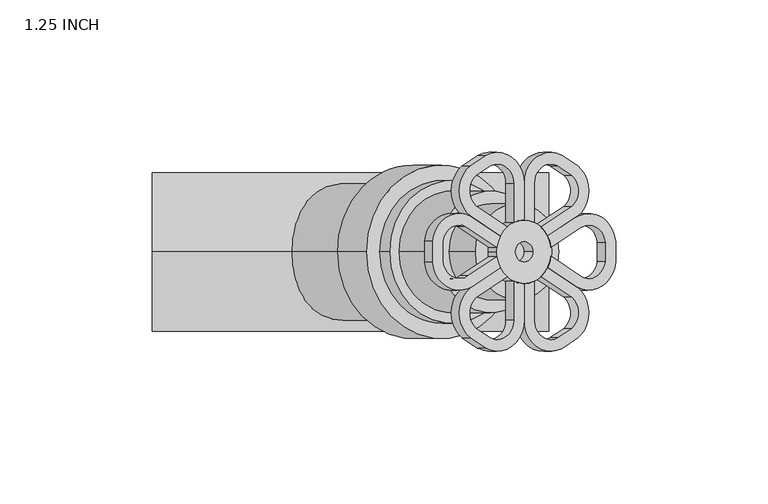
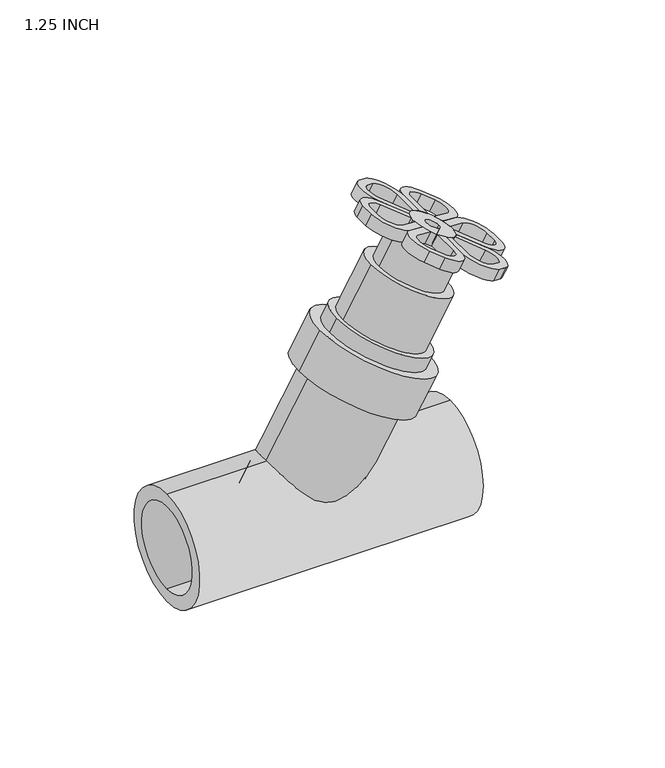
"""IFC4 building model written with IfcOpenShell, lengths in millimetres: valve geometry, Aquatherm - Inclined Valve without drain : 1.25 INCH."""

from ifc_helpers import new_model, si_unit, point, frame, frame_2d, origin, origin_2d, place, context, project, spatial, polyline, circle_curve, trimmed, segment, composite_curve, outline, extrude, source, transform, mapped, element, save
from ifc_brep_helpers import plane_surface, cylinder_surface, revolved_surface, advanced_brep


def valve_1_25_inch_bb9c0c51(model_context):
    return source(origin(), model_context, "Body", "SolidModel", [
        advanced_brep(
        [(131.4312275, 10.5951948, 100.0426553), (144.564244, 2.812243, 92.4603047), (144.5843625, -4.0695455, 92.4486893), (132.2186595, -12.3087434, 99.5880312), (122.4292614, -5.7824779, 105.2399429), (123.5225816, -2.111949, 104.6087142), (133.7085611, -8.902602, 98.7278362), (141.2862492, -3.6900946, 94.3528559), (141.3022835, 2.4387005, 94.3435985), (133.0810059, 7.295638, 99.0901553), (123.5099846, 0.9149571, 104.6159871), (122.4016894, 4.5755028, 105.2558616), (134.0982275, 10.5951948, 104.6620349), (125.0686894, 4.5755028, 109.8752411), (126.1769846, 0.9149571, 109.2353666), (135.7480059, 7.295638, 103.7095349), (143.9477944, 2.4362397, 98.9753847), (143.968063, -3.691799, 98.9636826), (136.3755611, -8.902602, 103.3472157), (126.1895816, -2.111949, 109.2280937), (125.0962614, -5.7824779, 109.8593224), (134.8856595, -12.3087434, 104.2074107), (147.2365487, -4.0678412, 97.0766215), (147.2527331, 2.8147039, 97.0672775)],
        [
            (0, 1, circle_curve(frame((135.8231929, 1.8112639, 97.5069529), z_axis=(-0.49999999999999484, 0.0, -0.8660254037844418), x_axis=(0.4330127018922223, -0.866025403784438, -0.24999999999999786)), 10.1428098)),
            (1, 2, circle_curve(frame((114.5968937, -0.6194603, 109.7619625), z_axis=(-0.49999999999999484, 0.0, -0.8660254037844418), x_axis=(0.4330127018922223, -0.866025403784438, -0.24999999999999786)), 34.798)),
            (2, 3, circle_curve(frame((135.8288972, -3.0622214, 97.5036596), z_axis=(-0.49999999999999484, 0.0, -0.8660254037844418), x_axis=(0.4330127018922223, -0.866025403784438, -0.24999999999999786)), 10.1428098)),
            (3, 4),
            (4, 5, circle_curve(frame((114.5968937, -0.6194603, 109.7619625), z_axis=(0.49999999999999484, 0.0, 0.8660254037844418), x_axis=(0.41622412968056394, 0.8769321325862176, -0.2403071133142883)), 10.414)),
            (5, 6),
            (6, 7, circle_curve(frame((135.8288972, -3.0622214, 97.5036596), z_axis=(0.49999999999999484, 0.0, 0.8660254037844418), x_axis=(0.4330127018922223, -0.866025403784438, -0.24999999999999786)), 6.3328098)),
            (7, 8, circle_curve(frame((114.5968937, -0.6194603, 109.7619625), z_axis=(0.49999999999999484, 0.0, 0.8660254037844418), x_axis=(0.4330127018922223, -0.866025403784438, -0.24999999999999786)), 30.988)),
            (8, 9, circle_curve(frame((135.8231929, 1.8112639, 97.5069529), z_axis=(0.49999999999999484, 0.0, 0.8660254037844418), x_axis=(0.4330127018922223, -0.866025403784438, -0.24999999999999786)), 6.3328098)),
            (9, 10),
            (10, 11, circle_curve(frame((114.5911894, -0.6314972, 109.7652558), z_axis=(0.49999999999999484, 0.0, 0.8660254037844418), x_axis=(0.4330127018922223, -0.866025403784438, -0.24999999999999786)), 10.414)),
            (11, 0),
            (12, 13),
            (13, 14, circle_curve(frame((117.2581894, -0.6314972, 114.3846353), z_axis=(-0.49999999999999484, 0.0, -0.8660254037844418), x_axis=(0.4330127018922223, -0.866025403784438, -0.24999999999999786)), 10.414)),
            (14, 15),
            (15, 16, circle_curve(frame((138.4901929, 1.8112639, 102.1263324), z_axis=(-0.49999999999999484, 0.0, -0.8660254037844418), x_axis=(0.4330127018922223, -0.866025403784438, -0.24999999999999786)), 6.3328098)),
            (16, 17, circle_curve(frame((117.2638937, -0.6194603, 114.381342), z_axis=(-0.49999999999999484, 0.0, -0.8660254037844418), x_axis=(0.4330127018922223, -0.866025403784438, -0.24999999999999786)), 30.988)),
            (17, 18, circle_curve(frame((138.4958972, -3.0622214, 102.1230391), z_axis=(-0.49999999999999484, 0.0, -0.8660254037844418), x_axis=(0.4330127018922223, -0.866025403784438, -0.24999999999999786)), 6.3328098)),
            (18, 19),
            (19, 20, circle_curve(frame((117.2638937, -0.6194603, 114.381342), z_axis=(-0.49999999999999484, 0.0, -0.8660254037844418), x_axis=(0.41622412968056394, 0.8769321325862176, -0.2403071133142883)), 10.414)),
            (20, 21),
            (21, 22, circle_curve(frame((138.4958972, -3.0622214, 102.1230391), z_axis=(0.49999999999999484, 0.0, 0.8660254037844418), x_axis=(0.4330127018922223, -0.866025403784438, -0.24999999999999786)), 10.1428098)),
            (22, 23, circle_curve(frame((117.2638937, -0.6194603, 114.381342), z_axis=(0.49999999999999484, 0.0, 0.8660254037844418), x_axis=(0.4330127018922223, -0.866025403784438, -0.24999999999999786)), 34.798)),
            (23, 12, circle_curve(frame((138.4901929, 1.8112639, 102.1263324), z_axis=(0.49999999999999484, 0.0, 0.8660254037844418), x_axis=(0.4330127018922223, -0.866025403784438, -0.24999999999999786)), 10.1428098)),
            (11, 13),
            (12, 0),
            (10, 14),
            (9, 15),
            (8, 16),
            (7, 17),
            (6, 18),
            (5, 19),
            (4, 20),
            (3, 21),
            (2, 22),
            (1, 23),
        ],
        [
            plane_surface(frame((140.2151584, -6.9726671, 94.9712505), z_axis=(-0.4999999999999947, 0.0, -0.8660254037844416), x_axis=(-0.7500000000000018, -0.5000000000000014, 0.43301270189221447))),
            plane_surface(frame((142.8821584, -6.9726671, 99.59063), z_axis=(0.4999999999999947, 0.0, 0.8660254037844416), x_axis=(0.7500000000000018, 0.5000000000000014, -0.43301270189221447))),
            plane_surface(frame((122.4016894, 4.5755028, 105.2558616), z_axis=(-0.43301270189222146, 0.8660254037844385, 0.24999999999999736), x_axis=(0.49999999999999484, 0.0, 0.8660254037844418))),
            revolved_surface(polyline([(121.76758372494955, -9.650285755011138, 111.78113538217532), (119.10058367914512, -9.650285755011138, 107.16175579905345)]), (117.2581894, -0.6314972, 114.3846353), (0.49999999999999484, 0.0, 0.8660254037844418)),
            plane_surface(frame((133.0810059, 7.295638, 99.0901553), z_axis=(0.43301270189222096, -0.8660254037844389, -0.24999999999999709), x_axis=(0.49999999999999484, 0.0, 0.8660254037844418))),
            revolved_surface(polyline([(141.23238002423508, -3.6731102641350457, 100.5431300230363), (138.56537998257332, -3.6731102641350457, 95.92375044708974)]), (138.4901929, 1.8112639, 102.1263324), (0.49999999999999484, 0.0, 0.8660254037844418)),
            revolved_surface(polyline([(130.68209130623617, -27.455855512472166, 106.63434200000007), (128.01509130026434, -27.455855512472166, 102.0149624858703)]), (117.2638937, -0.6194603, 114.381342), (0.49999999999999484, 0.0, 0.8660254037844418)),
            revolved_surface(polyline([(141.23808428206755, -8.546595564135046, 100.53983665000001), (138.57108426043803, -8.546595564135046, 95.92045710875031)]), (138.4958972, -3.0622214, 102.1230391), (0.49999999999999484, 0.0, 0.8660254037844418)),
            plane_surface(frame((123.5225816, -2.111949, 104.6087142), z_axis=(0.4330127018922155, 0.8660254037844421, -0.2499999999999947), x_axis=(0.49999999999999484, 0.0, 0.8660254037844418))),
            revolved_surface(polyline([(121.59845179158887, 8.51291092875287, 111.87878373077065), (118.93145178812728, 8.51291092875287, 107.25940422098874)]), (117.2638937, -0.6194603, 114.381342), (0.49999999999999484, 0.0, 0.8660254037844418)),
            plane_surface(frame((132.2186595, -12.3087434, 99.5880312), z_axis=(-0.43301270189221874, -0.8660254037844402, 0.24999999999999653), x_axis=(0.49999999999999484, 0.0, 0.8660254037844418))),
            cylinder_surface(frame((138.4958972, -3.0622214, 102.1230391), z_axis=(-0.49999999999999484, 0.0, -0.8660254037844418), x_axis=(0.4330127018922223, -0.866025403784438, -0.24999999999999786)), 10.1428098),
            cylinder_surface(frame((117.2638937, -0.6194603, 114.381342), z_axis=(-0.49999999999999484, 0.0, -0.8660254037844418), x_axis=(0.4330127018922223, -0.866025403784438, -0.24999999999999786)), 34.798),
            cylinder_surface(frame((138.4901929, 1.8112639, 102.1263324), z_axis=(-0.49999999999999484, 0.0, -0.8660254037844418), x_axis=(0.4330127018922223, -0.866025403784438, -0.24999999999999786)), 10.1428098),
        ],
        [
            (0, [[1, 2, 3, 4, 5, 6, 7, 8, 9, 10, 11, 12]]),
            (1, [[13, 14, 15, 16, 17, 18, 19, 20, 21, 22, 23, 24]]),
            (2, [[-12, 25, -13, 26]]),
            (3, [[-11, 27, -14, -25]]),
            (4, [[-10, 28, -15, -27]]),
            (5, [[-9, 29, -16, -28]]),
            (6, [[-8, 30, -17, -29]]),
            (7, [[-7, 31, -18, -30]]),
            (8, [[-6, 32, -19, -31]]),
            (9, [[-5, 33, -20, -32]]),
            (10, [[-4, 34, -21, -33]]),
            (11, [[-3, 35, -22, -34]]),
            (12, [[-2, 36, -23, -35]]),
            (13, [[-1, -26, -24, -36]]),
        ],
    ),
        advanced_brep(
        [(97.7511514, -11.8581892, 119.4878563), (84.6181349, -4.0752375, 127.0702069), (84.5980164, 2.8065511, 127.0818224), (96.9637194, 11.0457489, 119.9424804), (106.7531175, 4.5194835, 114.2905688), (105.6597973, 0.8489546, 114.9217975), (95.4738178, 7.6396076, 120.8026755), (87.8961297, 2.4271002, 125.1776558), (87.8800953, -3.7016949, 125.1869132), (96.101373, -8.5586324, 120.4403563), (105.6723943, -2.1779516, 114.9145246), (106.7806894, -5.8384972, 114.2746501), (100.4181514, -11.8581892, 124.1072358), (109.4476894, -5.8384972, 118.8940296), (108.3393943, -2.1779516, 119.5339041), (98.768373, -8.5586324, 125.0597358), (90.5685845, -3.6992341, 129.7938859), (90.5483159, 2.4288045, 129.805588), (98.1408178, 7.6396076, 125.422055), (108.3267973, 0.8489546, 119.541177), (109.4201175, 4.5194835, 118.9099483), (99.6307194, 11.0457489, 124.5618599), (87.2798302, 2.8048467, 131.6926491), (87.2636458, -4.0776983, 131.7019932)],
        [
            (0, 1, circle_curve(frame((93.359186, -3.0742583, 122.0235588), z_axis=(-0.49999999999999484, 0.0, -0.8660254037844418), x_axis=(-0.4330127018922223, 0.866025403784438, 0.24999999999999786)), 10.1428098)),
            (1, 2, circle_curve(frame((114.5854852, -0.6435341, 109.7685492), z_axis=(-0.49999999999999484, 0.0, -0.8660254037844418), x_axis=(-0.4330127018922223, 0.866025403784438, 0.24999999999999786)), 34.798)),
            (2, 3, circle_curve(frame((93.3534817, 1.7992269, 122.0268521), z_axis=(-0.49999999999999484, 0.0, -0.8660254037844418), x_axis=(-0.4330127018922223, 0.866025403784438, 0.24999999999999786)), 10.1428098)),
            (3, 4),
            (4, 5, circle_curve(frame((114.5854852, -0.6435341, 109.7685492), z_axis=(0.49999999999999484, 0.0, 0.8660254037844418), x_axis=(-0.41622412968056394, -0.8769321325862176, 0.2403071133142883)), 10.414)),
            (5, 6),
            (6, 7, circle_curve(frame((93.3534817, 1.7992269, 122.0268521), z_axis=(0.49999999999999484, 0.0, 0.8660254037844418), x_axis=(-0.4330127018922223, 0.866025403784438, 0.24999999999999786)), 6.3328098)),
            (7, 8, circle_curve(frame((114.5854852, -0.6435341, 109.7685492), z_axis=(0.49999999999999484, 0.0, 0.8660254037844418), x_axis=(-0.4330127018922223, 0.866025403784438, 0.24999999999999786)), 30.988)),
            (8, 9, circle_curve(frame((93.359186, -3.0742583, 122.0235588), z_axis=(0.49999999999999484, 0.0, 0.8660254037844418), x_axis=(-0.4330127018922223, 0.866025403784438, 0.24999999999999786)), 6.3328098)),
            (9, 10),
            (10, 11, circle_curve(frame((114.5911894, -0.6314972, 109.7652558), z_axis=(0.49999999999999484, 0.0, 0.8660254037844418), x_axis=(-0.4330127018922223, 0.866025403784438, 0.24999999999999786)), 10.414)),
            (11, 0),
            (12, 13),
            (13, 14, circle_curve(frame((117.2581894, -0.6314972, 114.3846353), z_axis=(-0.49999999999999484, 0.0, -0.8660254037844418), x_axis=(-0.4330127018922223, 0.866025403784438, 0.24999999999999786)), 10.414)),
            (14, 15),
            (15, 16, circle_curve(frame((96.026186, -3.0742583, 126.6429383), z_axis=(-0.49999999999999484, 0.0, -0.8660254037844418), x_axis=(-0.4330127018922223, 0.866025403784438, 0.24999999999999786)), 6.3328098)),
            (16, 17, circle_curve(frame((117.2524852, -0.6435341, 114.3879287), z_axis=(-0.49999999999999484, 0.0, -0.8660254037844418), x_axis=(-0.4330127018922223, 0.866025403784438, 0.24999999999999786)), 30.988)),
            (17, 18, circle_curve(frame((96.0204817, 1.7992269, 126.6462316), z_axis=(-0.49999999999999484, 0.0, -0.8660254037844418), x_axis=(-0.4330127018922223, 0.866025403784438, 0.24999999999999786)), 6.3328098)),
            (18, 19),
            (19, 20, circle_curve(frame((117.2524852, -0.6435341, 114.3879287), z_axis=(-0.49999999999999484, 0.0, -0.8660254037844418), x_axis=(-0.41622412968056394, -0.8769321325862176, 0.2403071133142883)), 10.414)),
            (20, 21),
            (21, 22, circle_curve(frame((96.0204817, 1.7992269, 126.6462316), z_axis=(0.49999999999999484, 0.0, 0.8660254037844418), x_axis=(-0.4330127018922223, 0.866025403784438, 0.24999999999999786)), 10.1428098)),
            (22, 23, circle_curve(frame((117.2524852, -0.6435341, 114.3879287), z_axis=(0.49999999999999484, 0.0, 0.8660254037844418), x_axis=(-0.4330127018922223, 0.866025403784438, 0.24999999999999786)), 34.798)),
            (23, 12, circle_curve(frame((96.026186, -3.0742583, 126.6429383), z_axis=(0.49999999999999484, 0.0, 0.8660254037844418), x_axis=(-0.4330127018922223, 0.866025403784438, 0.24999999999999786)), 10.1428098)),
            (0, 12),
            (23, 1),
            (22, 2),
            (21, 3),
            (20, 4),
            (19, 5),
            (18, 6),
            (17, 7),
            (16, 8),
            (15, 9),
            (14, 10),
            (13, 11),
        ],
        [
            plane_surface(frame((88.9672205, 5.7096726, 124.5592612), z_axis=(-0.4999999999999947, 0.0, -0.8660254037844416), x_axis=(0.7500000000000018, 0.5000000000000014, -0.43301270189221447))),
            plane_surface(frame((91.6342205, 5.7096726, 129.1786407), z_axis=(0.4999999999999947, 0.0, 0.8660254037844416), x_axis=(-0.7500000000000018, -0.5000000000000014, 0.43301270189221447))),
            cylinder_surface(frame((96.026186, -3.0742583, 126.6429383), z_axis=(-0.49999999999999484, 0.0, -0.8660254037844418), x_axis=(-0.4330127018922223, 0.866025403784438, 0.24999999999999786)), 10.1428098),
            cylinder_surface(frame((117.2524852, -0.6435341, 114.3879287), z_axis=(-0.49999999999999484, 0.0, -0.8660254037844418), x_axis=(-0.4330127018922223, 0.866025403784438, 0.24999999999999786)), 34.798),
            cylinder_surface(frame((96.0204817, 1.7992269, 126.6462316), z_axis=(-0.49999999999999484, 0.0, -0.8660254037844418), x_axis=(-0.4330127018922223, 0.866025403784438, 0.24999999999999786)), 10.1428098),
            plane_surface(frame((96.9637194, 11.0457489, 119.9424804), z_axis=(0.43301270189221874, 0.8660254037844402, -0.24999999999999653), x_axis=(0.49999999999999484, 0.0, 0.8660254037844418))),
            revolved_surface(polyline([(112.9179271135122, -9.77590532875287, 116.8904869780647), (110.25092711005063, -9.77590532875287, 112.2711074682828)]), (117.2524852, -0.6435341, 114.3879287), (0.49999999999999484, 0.0, 0.8660254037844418)),
            plane_surface(frame((105.6597973, 0.8489546, 114.9217975), z_axis=(-0.43301270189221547, -0.8660254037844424, 0.24999999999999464), x_axis=(0.49999999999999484, 0.0, 0.8660254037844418))),
            revolved_surface(polyline([(93.27829462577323, 7.283601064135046, 128.22943406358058), (90.61129461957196, 7.283601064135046, 123.61005454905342)]), (96.0204817, 1.7992269, 126.6462316), (0.49999999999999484, 0.0, 0.8660254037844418)),
            revolved_surface(polyline([(103.8342875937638, 26.192861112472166, 122.13492869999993), (101.16728757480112, 26.192861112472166, 117.51554916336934)]), (117.2524852, -0.6435341, 114.3879287), (0.49999999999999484, 0.0, 0.8660254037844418)),
            revolved_surface(polyline([(93.28399891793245, 2.410115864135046, 128.22614074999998), (90.61699887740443, 2.410115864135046, 123.60676117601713)]), (96.026186, -3.0742583, 126.6429383), (0.49999999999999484, 0.0, 0.8660254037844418)),
            plane_surface(frame((96.101373, -8.5586324, 120.4403563), z_axis=(-0.43301270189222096, 0.8660254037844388, 0.24999999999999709), x_axis=(0.49999999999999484, 0.0, 0.8660254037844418))),
            revolved_surface(polyline([(112.74879514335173, 8.387291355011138, 116.98813533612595), (110.0817951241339, 8.387291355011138, 112.36875579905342)]), (117.2581894, -0.6314972, 114.3846353), (0.49999999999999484, 0.0, 0.8660254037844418)),
            plane_surface(frame((106.7806894, -5.8384972, 114.2746501), z_axis=(0.43301270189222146, -0.8660254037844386, -0.24999999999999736), x_axis=(0.49999999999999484, 0.0, 0.8660254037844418))),
        ],
        [
            (0, [[1, 2, 3, 4, 5, 6, 7, 8, 9, 10, 11, 12]]),
            (1, [[13, 14, 15, 16, 17, 18, 19, 20, 21, 22, 23, 24]]),
            (2, [[-1, 25, -24, 26]]),
            (3, [[-2, -26, -23, 27]]),
            (4, [[-3, -27, -22, 28]]),
            (5, [[-4, -28, -21, 29]]),
            (6, [[-5, -29, -20, 30]]),
            (7, [[-6, -30, -19, 31]]),
            (8, [[-7, -31, -18, 32]]),
            (9, [[-8, -32, -17, 33]]),
            (10, [[-9, -33, -16, 34]]),
            (11, [[-10, -34, -15, 35]]),
            (12, [[-11, -35, -14, 36]]),
            (13, [[-12, -36, -13, -25]]),
        ],
    ),
        advanced_brep(
        [(114.5911894, 21.8218868, 109.7652558), (114.5911894, 9.7825028, 109.7652558), (111.2916327, 9.0605251, 111.6702558), (111.2916327, 21.8218868, 111.6702558), (103.5471896, 27.5919762, 116.1415121), (98.9410264, 24.5482255, 118.8008817), (98.829175, 14.350322, 118.8654591), (109.0151545, 7.559669, 112.9845811), (106.8089179, 4.6310844, 114.2583524), (97.0195198, 11.1573498, 119.910264), (97.0247518, 27.6286901, 119.9072433), (102.1785684, 31.086147, 116.9316859), (117.2581894, 21.8218868, 114.3846353), (104.8544674, 31.0634274, 121.5459276), (99.6830667, 27.6426517, 124.5316372), (99.6865198, 11.1573498, 124.5296435), (109.4759179, 4.6310844, 118.8777319), (111.6821545, 7.559669, 117.6039606), (101.496175, 14.350322, 123.4848386), (101.6167115, 24.5342638, 123.4152468), (106.2052907, 27.6146957, 120.7660294), (113.9586327, 21.8218868, 116.2896353), (113.9586327, 9.0605251, 116.2896353), (117.2581894, 9.7825028, 114.3846353)],
        [
            (0, 1),
            (1, 2, circle_curve(frame((114.5911894, -0.6314972, 109.7652558), z_axis=(0.49999999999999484, 0.0, 0.8660254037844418), x_axis=(-0.8660254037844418, 0.0, 0.49999999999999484)), 10.414)),
            (2, 3),
            (3, 4, circle_curve(frame((105.8072585, 21.8218868, 114.8366607), z_axis=(0.49999999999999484, 0.0, 0.8660254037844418), x_axis=(-0.8660254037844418, 0.0, 0.49999999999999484)), 6.3328098)),
            (4, 5, circle_curve(frame((114.597365, -0.6197745, 109.7616904), z_axis=(0.49999999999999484, 0.0, 0.8660254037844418), x_axis=(-0.8660254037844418, 0.0, 0.49999999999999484)), 30.988)),
            (5, 6, circle_curve(frame((102.1492925, 19.3908484, 116.9485884), z_axis=(0.49999999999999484, 0.0, 0.8660254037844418), x_axis=(-0.8660254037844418, 0.0, 0.49999999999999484)), 6.3328098)),
            (6, 7),
            (7, 8, circle_curve(frame((114.597365, -0.6197745, 109.7616904), z_axis=(0.4999999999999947, 0.0, 0.8660254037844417), x_axis=(0.4495870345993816, 0.8546901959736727, -0.2595691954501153)), 10.414)),
            (8, 9),
            (9, 10, circle_curve(frame((102.1492925, 19.3908484, 116.9485884), z_axis=(-0.49999999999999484, 0.0, -0.8660254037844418), x_axis=(-0.8660254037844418, 0.0, 0.49999999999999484)), 10.1428098)),
            (10, 11, circle_curve(frame((114.597365, -0.6197745, 109.7616904), z_axis=(-0.49999999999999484, 0.0, -0.8660254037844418), x_axis=(-0.8660254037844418, 0.0, 0.49999999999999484)), 34.798)),
            (11, 0, circle_curve(frame((105.8072585, 21.8218868, 114.8366607), z_axis=(-0.49999999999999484, 0.0, -0.8660254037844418), x_axis=(-0.8660254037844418, 0.0, 0.49999999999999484)), 10.1428098)),
            (12, 13, circle_curve(frame((108.4742585, 21.8218868, 119.4560402), z_axis=(0.49999999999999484, 0.0, 0.8660254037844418), x_axis=(-0.8660254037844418, 0.0, 0.49999999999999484)), 10.1428098)),
            (13, 14, circle_curve(frame((117.264365, -0.6197745, 114.3810699), z_axis=(0.49999999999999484, 0.0, 0.8660254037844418), x_axis=(-0.8660254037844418, 0.0, 0.49999999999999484)), 34.798)),
            (14, 15, circle_curve(frame((104.8162925, 19.3908484, 121.5679679), z_axis=(0.49999999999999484, 0.0, 0.8660254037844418), x_axis=(-0.8660254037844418, 0.0, 0.49999999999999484)), 10.1428098)),
            (15, 16),
            (16, 17, circle_curve(frame((117.264365, -0.6197745, 114.3810699), z_axis=(-0.4999999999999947, 0.0, -0.8660254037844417), x_axis=(0.4495870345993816, 0.8546901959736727, -0.2595691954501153)), 10.414)),
            (17, 18),
            (18, 19, circle_curve(frame((104.8162925, 19.3908484, 121.5679679), z_axis=(-0.49999999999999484, 0.0, -0.8660254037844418), x_axis=(-0.8660254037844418, 0.0, 0.49999999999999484)), 6.3328098)),
            (19, 20, circle_curve(frame((117.264365, -0.6197745, 114.3810699), z_axis=(-0.49999999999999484, 0.0, -0.8660254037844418), x_axis=(-0.8660254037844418, 0.0, 0.49999999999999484)), 30.988)),
            (20, 21, circle_curve(frame((108.4742585, 21.8218868, 119.4560402), z_axis=(-0.49999999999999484, 0.0, -0.8660254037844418), x_axis=(-0.8660254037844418, 0.0, 0.49999999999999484)), 6.3328098)),
            (21, 22),
            (22, 23, circle_curve(frame((117.2581894, -0.6314972, 114.3846353), z_axis=(-0.49999999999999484, 0.0, -0.8660254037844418), x_axis=(-0.8660254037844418, 0.0, 0.49999999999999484)), 10.414)),
            (23, 12),
            (11, 13),
            (12, 0),
            (10, 14),
            (9, 15),
            (8, 16),
            (7, 17),
            (6, 18),
            (5, 19),
            (4, 20),
            (3, 21),
            (2, 22),
            (1, 23),
        ],
        [
            plane_surface(frame((114.5911894, 7.6235028, 109.7652558), z_axis=(-0.49999999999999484, 0.0, -0.8660254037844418), x_axis=(0.0, -1.0, 0.0))),
            plane_surface(frame((117.2581894, 7.6235028, 114.3846353), z_axis=(0.49999999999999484, 0.0, 0.8660254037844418), x_axis=(0.0, 1.0, 0.0))),
            cylinder_surface(frame((108.4742585, 21.8218868, 119.4560402), z_axis=(-0.49999999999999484, 0.0, -0.8660254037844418), x_axis=(-0.8660254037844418, 0.0, 0.49999999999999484)), 10.1428098),
            cylinder_surface(frame((117.264365, -0.6197745, 114.3810699), z_axis=(-0.49999999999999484, 0.0, -0.8660254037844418), x_axis=(-0.8660254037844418, 0.0, 0.49999999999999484)), 34.798),
            cylinder_surface(frame((104.8162925, 19.3908484, 121.5679679), z_axis=(-0.49999999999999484, 0.0, -0.8660254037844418), x_axis=(-0.8660254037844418, 0.0, 0.49999999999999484)), 10.1428098),
            plane_surface(frame((106.8089179, 4.6310844, 114.2583524), z_axis=(-0.433012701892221, -0.8660254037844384, 0.24999999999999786), x_axis=(0.49999999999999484, 0.0, 0.8660254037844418))),
            revolved_surface(polyline([(121.94636437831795, 8.280969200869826, 111.6779162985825), (119.27936436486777, 8.280969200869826, 107.05853677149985)]), (117.264365, -0.6197745, 114.3810699), (0.49999999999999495, 0.0, 0.866025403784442)),
            plane_surface(frame((98.829175, 14.350322, 118.8654591), z_axis=(0.4330127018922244, 0.8660254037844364, -0.2499999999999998), x_axis=(0.49999999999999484, 0.0, 0.8660254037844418))),
            revolved_surface(polyline([(99.33191833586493, 19.3908484, 124.73437279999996), (96.66491832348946, 19.3908484, 120.11499327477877)]), (104.8162925, 19.3908484, 121.5679679), (0.49999999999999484, 0.0, 0.8660254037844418)),
            revolved_surface(polyline([(90.42796978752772, -0.6197745, 129.87506989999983), (87.76096977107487, -0.6197745, 125.2556903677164)]), (117.264365, -0.6197745, 114.3810699), (0.49999999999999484, 0.0, 0.8660254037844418)),
            revolved_surface(polyline([(102.98988434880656, 21.8218868, 122.62244512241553), (100.32288433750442, 21.8218868, 118.00306559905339)]), (108.4742585, 21.8218868, 119.4560402), (0.49999999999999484, 0.0, 0.8660254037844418)),
            plane_surface(frame((111.2916327, 9.0605251, 111.6702558), z_axis=(-0.8660254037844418, 0.0, 0.49999999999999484), x_axis=(0.49999999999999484, 0.0, 0.8660254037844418))),
            revolved_surface(polyline([(108.23940086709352, -0.6314972, 119.5916353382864), (105.57240084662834, -0.6314972, 114.97225579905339)]), (117.2581894, -0.6314972, 114.3846353), (0.49999999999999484, 0.0, 0.8660254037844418)),
            plane_surface(frame((114.5911894, 21.8218868, 109.7652558), z_axis=(0.8660254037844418, 0.0, -0.49999999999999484), x_axis=(0.49999999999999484, 0.0, 0.8660254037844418))),
        ],
        [
            (0, [[1, 2, 3, 4, 5, 6, 7, 8, 9, 10, 11, 12]]),
            (1, [[13, 14, 15, 16, 17, 18, 19, 20, 21, 22, 23, 24]]),
            (2, [[-12, 25, -13, 26]]),
            (3, [[-11, 27, -14, -25]]),
            (4, [[-10, 28, -15, -27]]),
            (5, [[-9, 29, -16, -28]]),
            (6, [[-8, 30, -17, -29]]),
            (7, [[-7, 31, -18, -30]]),
            (8, [[-6, 32, -19, -31]]),
            (9, [[-5, 33, -20, -32]]),
            (10, [[-4, 34, -21, -33]]),
            (11, [[-3, 35, -22, -34]]),
            (12, [[-2, 36, -23, -35]]),
            (13, [[-1, -26, -24, -36]]),
        ],
    ),
        advanced_brep(
        [(114.5911894, 21.8218868, 109.7652558), (126.9949115, 31.0634274, 102.6039636), (132.1663122, 27.6426517, 99.618254), (132.1628591, 11.1573498, 99.6202476), (122.3734609, 4.6310844, 105.2721593), (120.1672244, 7.559669, 106.5459305), (130.3532039, 14.350322, 100.6650525), (130.2326674, 24.5342638, 100.7346443), (125.6440882, 27.6146957, 103.3838618), (117.8907462, 21.8218868, 107.8602558), (117.8907462, 9.0605251, 107.8602558), (114.5911894, 9.7825028, 109.7652558), (117.2581894, 21.8218868, 114.3846353), (117.2581894, 9.7825028, 114.3846353), (120.5577462, 9.0605251, 112.4796353), (120.5577462, 21.8218868, 112.4796353), (128.3021892, 27.5919762, 108.0083791), (132.9083525, 24.5482255, 105.3490095), (133.0202039, 14.350322, 105.2844321), (122.8342244, 7.559669, 111.1653101), (125.0404609, 4.6310844, 109.8915388), (134.8298591, 11.1573498, 104.2396271), (134.824627, 27.6286901, 104.2426479), (129.6708105, 31.086147, 107.2182052)],
        [
            (0, 1, circle_curve(frame((123.3751204, 21.8218868, 104.6938509), z_axis=(-0.49999999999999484, 0.0, -0.8660254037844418), x_axis=(0.8660254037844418, 0.0, -0.49999999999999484)), 10.1428098)),
            (1, 2, circle_curve(frame((114.5850139, -0.6197745, 109.7688213), z_axis=(-0.49999999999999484, 0.0, -0.8660254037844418), x_axis=(0.8660254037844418, 0.0, -0.49999999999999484)), 34.798)),
            (2, 3, circle_curve(frame((127.0330864, 19.3908484, 102.5819233), z_axis=(-0.49999999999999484, 0.0, -0.8660254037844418), x_axis=(0.8660254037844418, 0.0, -0.49999999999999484)), 10.1428098)),
            (3, 4),
            (4, 5, circle_curve(frame((114.5850139, -0.6197745, 109.7688213), z_axis=(0.4999999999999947, 0.0, 0.8660254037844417), x_axis=(-0.4495870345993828, 0.854690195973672, 0.2595691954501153)), 10.414)),
            (5, 6),
            (6, 7, circle_curve(frame((127.0330864, 19.3908484, 102.5819233), z_axis=(0.49999999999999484, 0.0, 0.8660254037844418), x_axis=(0.8660254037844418, 0.0, -0.49999999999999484)), 6.3328098)),
            (7, 8, circle_curve(frame((114.5850139, -0.6197745, 109.7688213), z_axis=(0.49999999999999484, 0.0, 0.8660254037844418), x_axis=(0.8660254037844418, 0.0, -0.49999999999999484)), 30.988)),
            (8, 9, circle_curve(frame((123.3751204, 21.8218868, 104.6938509), z_axis=(0.49999999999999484, 0.0, 0.8660254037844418), x_axis=(0.8660254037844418, 0.0, -0.49999999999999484)), 6.3328098)),
            (9, 10),
            (10, 11, circle_curve(frame((114.5911894, -0.6314972, 109.7652558), z_axis=(0.49999999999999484, 0.0, 0.8660254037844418), x_axis=(0.8660254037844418, 0.0, -0.49999999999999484)), 10.414)),
            (11, 0),
            (12, 13),
            (13, 14, circle_curve(frame((117.2581894, -0.6314972, 114.3846353), z_axis=(-0.49999999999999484, 0.0, -0.8660254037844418), x_axis=(0.8660254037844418, 0.0, -0.49999999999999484)), 10.414)),
            (14, 15),
            (15, 16, circle_curve(frame((126.0421204, 21.8218868, 109.3132304), z_axis=(-0.49999999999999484, 0.0, -0.8660254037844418), x_axis=(0.8660254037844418, 0.0, -0.49999999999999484)), 6.3328098)),
            (16, 17, circle_curve(frame((117.2520139, -0.6197745, 114.3882008), z_axis=(-0.49999999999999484, 0.0, -0.8660254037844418), x_axis=(0.8660254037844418, 0.0, -0.49999999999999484)), 30.988)),
            (17, 18, circle_curve(frame((129.7000864, 19.3908484, 107.2013028), z_axis=(-0.49999999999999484, 0.0, -0.8660254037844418), x_axis=(0.8660254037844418, 0.0, -0.49999999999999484)), 6.3328098)),
            (18, 19),
            (19, 20, circle_curve(frame((117.2520139, -0.6197745, 114.3882008), z_axis=(-0.4999999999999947, 0.0, -0.8660254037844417), x_axis=(-0.4495870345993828, 0.854690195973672, 0.2595691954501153)), 10.414)),
            (20, 21),
            (21, 22, circle_curve(frame((129.7000864, 19.3908484, 107.2013028), z_axis=(0.49999999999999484, 0.0, 0.8660254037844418), x_axis=(0.8660254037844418, 0.0, -0.49999999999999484)), 10.1428098)),
            (22, 23, circle_curve(frame((117.2520139, -0.6197745, 114.3882008), z_axis=(0.49999999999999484, 0.0, 0.8660254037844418), x_axis=(0.8660254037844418, 0.0, -0.49999999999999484)), 34.798)),
            (23, 12, circle_curve(frame((126.0421204, 21.8218868, 109.3132304), z_axis=(0.49999999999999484, 0.0, 0.8660254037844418), x_axis=(0.8660254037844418, 0.0, -0.49999999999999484)), 10.1428098)),
            (11, 13),
            (12, 0),
            (10, 14),
            (9, 15),
            (8, 16),
            (7, 17),
            (6, 18),
            (5, 19),
            (4, 20),
            (3, 21),
            (2, 22),
            (1, 23),
        ],
        [
            plane_surface(frame((132.1590513, 21.8218868, 99.6224461), z_axis=(-0.49999999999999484, 0.0, -0.8660254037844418), x_axis=(0.0, -1.0, 0.0))),
            plane_surface(frame((134.8260513, 21.8218868, 104.2418256), z_axis=(0.49999999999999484, 0.0, 0.8660254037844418), x_axis=(0.0, 1.0, 0.0))),
            plane_surface(frame((114.5911894, 9.7825028, 109.7652558), z_axis=(-0.8660254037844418, 0.0, 0.49999999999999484), x_axis=(0.49999999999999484, 0.0, 0.8660254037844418))),
            revolved_surface(polyline([(126.27697795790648, -0.6314972, 109.17763530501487), (123.60997795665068, -0.6314972, 104.55825579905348)]), (117.2581894, -0.6314972, 114.3846353), (0.49999999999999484, 0.0, 0.8660254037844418)),
            plane_surface(frame((117.8907462, 21.8218868, 107.8602558), z_axis=(0.8660254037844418, 0.0, -0.49999999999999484), x_axis=(0.49999999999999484, 0.0, 0.8660254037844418))),
            revolved_surface(polyline([(131.5264945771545, 21.8218868, 106.14682552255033), (128.85949455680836, 21.8218868, 101.52744598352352)]), (126.0421204, 21.8218868, 109.3132304), (0.49999999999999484, 0.0, 0.8660254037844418)),
            revolved_surface(polyline([(144.08840911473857, -0.6197745, 98.89420080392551), (141.42140909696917, -0.6197745, 94.27482126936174)]), (117.2520139, -0.6197745, 114.3882008), (0.49999999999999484, 0.0, 0.8660254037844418)),
            revolved_surface(polyline([(135.18446057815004, 19.3908484, 104.03489792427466), (132.51746053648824, 19.3908484, 99.41551834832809)]), (129.7000864, 19.3908484, 107.2013028), (0.49999999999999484, 0.0, 0.8660254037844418)),
            plane_surface(frame((120.1672244, 7.559669, 106.5459305), z_axis=(-0.4330127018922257, 0.8660254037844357, 0.24999999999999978), x_axis=(0.49999999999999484, 0.0, 0.8660254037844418))),
            revolved_surface(polyline([(112.5700145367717, 8.28096920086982, 117.09135442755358), (109.90301449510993, 8.28096920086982, 112.47197485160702)]), (117.2520139, -0.6197745, 114.3882008), (0.49999999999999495, 0.0, 0.866025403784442)),
            plane_surface(frame((132.1628591, 11.1573498, 99.6202476), z_axis=(0.4330127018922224, -0.8660254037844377, -0.24999999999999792), x_axis=(0.49999999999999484, 0.0, 0.8660254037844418))),
            cylinder_surface(frame((129.7000864, 19.3908484, 107.2013028), z_axis=(-0.49999999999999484, 0.0, -0.8660254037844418), x_axis=(0.8660254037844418, 0.0, -0.49999999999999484)), 10.1428098),
            cylinder_surface(frame((117.2520139, -0.6197745, 114.3882008), z_axis=(-0.49999999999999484, 0.0, -0.8660254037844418), x_axis=(0.8660254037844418, 0.0, -0.49999999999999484)), 34.798),
            cylinder_surface(frame((126.0421204, 21.8218868, 109.3132304), z_axis=(-0.49999999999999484, 0.0, -0.8660254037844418), x_axis=(0.8660254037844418, 0.0, -0.49999999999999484)), 10.1428098),
        ],
        [
            (0, [[1, 2, 3, 4, 5, 6, 7, 8, 9, 10, 11, 12]]),
            (1, [[13, 14, 15, 16, 17, 18, 19, 20, 21, 22, 23, 24]]),
            (2, [[-12, 25, -13, 26]]),
            (3, [[-11, 27, -14, -25]]),
            (4, [[-10, 28, -15, -27]]),
            (5, [[-9, 29, -16, -28]]),
            (6, [[-8, 30, -17, -29]]),
            (7, [[-7, 31, -18, -30]]),
            (8, [[-6, 32, -19, -31]]),
            (9, [[-5, 33, -20, -32]]),
            (10, [[-4, 34, -21, -33]]),
            (11, [[-3, 35, -22, -34]]),
            (12, [[-2, 36, -23, -35]]),
            (13, [[-1, -26, -24, -36]]),
        ],
    ),
        advanced_brep(
        [(114.5911894, -23.0848812, 109.7652558), (102.1874674, -32.3264219, 116.9265481), (97.0160667, -28.9056461, 119.9122577), (97.0195198, -12.4203442, 119.910264), (106.8089179, -5.8940788, 114.2583524), (109.0151545, -8.8226635, 112.9845811), (98.829175, -15.6133165, 118.8654591), (98.9497115, -25.7972583, 118.7958673), (103.5382907, -28.8776902, 116.1466499), (111.2916327, -23.0848812, 111.6702558), (111.2916327, -10.3235195, 111.6702558), (114.5911894, -11.0454972, 109.7652558), (117.2581894, -23.0848812, 114.3846353), (117.2581894, -11.0454972, 114.3846353), (113.9586327, -10.3235195, 116.2896353), (113.9586327, -23.0848812, 116.2896353), (106.2141896, -28.8549706, 120.7608916), (101.6080264, -25.8112199, 123.4202612), (101.496175, -15.6133165, 123.4848386), (111.6821545, -8.8226635, 117.6039606), (109.4759179, -5.8940788, 118.8777319), (99.6865198, -12.4203442, 124.5296435), (99.6917518, -28.8916845, 124.5266228), (104.8455684, -32.3491414, 121.5510654)],
        [
            (0, 1, circle_curve(frame((105.8072585, -23.0848812, 114.8366607), z_axis=(-0.49999999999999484, 0.0, -0.8660254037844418), x_axis=(-0.8660254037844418, 0.0, 0.49999999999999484)), 10.1428098)),
            (1, 2, circle_curve(frame((114.597365, -0.6432199, 109.7616904), z_axis=(-0.49999999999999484, 0.0, -0.8660254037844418), x_axis=(-0.8660254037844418, 0.0, 0.49999999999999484)), 34.798)),
            (2, 3, circle_curve(frame((102.1492925, -20.6538429, 116.9485884), z_axis=(-0.49999999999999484, 0.0, -0.8660254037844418), x_axis=(-0.8660254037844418, 0.0, 0.49999999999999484)), 10.1428098)),
            (3, 4),
            (4, 5, circle_curve(frame((114.597365, -0.6432199, 109.7616904), z_axis=(0.4999999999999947, 0.0, 0.8660254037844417), x_axis=(0.4495870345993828, -0.854690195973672, -0.2595691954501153)), 10.414)),
            (5, 6),
            (6, 7, circle_curve(frame((102.1492925, -20.6538429, 116.9485884), z_axis=(0.49999999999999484, 0.0, 0.8660254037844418), x_axis=(-0.8660254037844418, 0.0, 0.49999999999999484)), 6.3328098)),
            (7, 8, circle_curve(frame((114.597365, -0.6432199, 109.7616904), z_axis=(0.49999999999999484, 0.0, 0.8660254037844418), x_axis=(-0.8660254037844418, 0.0, 0.49999999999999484)), 30.988)),
            (8, 9, circle_curve(frame((105.8072585, -23.0848812, 114.8366607), z_axis=(0.49999999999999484, 0.0, 0.8660254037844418), x_axis=(-0.8660254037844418, 0.0, 0.49999999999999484)), 6.3328098)),
            (9, 10),
            (10, 11, circle_curve(frame((114.5911894, -0.6314972, 109.7652558), z_axis=(0.49999999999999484, 0.0, 0.8660254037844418), x_axis=(-0.8660254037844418, 0.0, 0.49999999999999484)), 10.414)),
            (11, 0),
            (12, 13),
            (13, 14, circle_curve(frame((117.2581894, -0.6314972, 114.3846353), z_axis=(-0.49999999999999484, 0.0, -0.8660254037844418), x_axis=(-0.8660254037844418, 0.0, 0.49999999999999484)), 10.414)),
            (14, 15),
            (15, 16, circle_curve(frame((108.4742585, -23.0848812, 119.4560402), z_axis=(-0.49999999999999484, 0.0, -0.8660254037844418), x_axis=(-0.8660254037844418, 0.0, 0.49999999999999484)), 6.3328098)),
            (16, 17, circle_curve(frame((117.264365, -0.6432199, 114.3810699), z_axis=(-0.49999999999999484, 0.0, -0.8660254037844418), x_axis=(-0.8660254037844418, 0.0, 0.49999999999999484)), 30.988)),
            (17, 18, circle_curve(frame((104.8162925, -20.6538429, 121.5679679), z_axis=(-0.49999999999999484, 0.0, -0.8660254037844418), x_axis=(-0.8660254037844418, 0.0, 0.49999999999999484)), 6.3328098)),
            (18, 19),
            (19, 20, circle_curve(frame((117.264365, -0.6432199, 114.3810699), z_axis=(-0.4999999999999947, 0.0, -0.8660254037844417), x_axis=(0.4495870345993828, -0.854690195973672, -0.2595691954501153)), 10.414)),
            (20, 21),
            (21, 22, circle_curve(frame((104.8162925, -20.6538429, 121.5679679), z_axis=(0.49999999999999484, 0.0, 0.8660254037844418), x_axis=(-0.8660254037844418, 0.0, 0.49999999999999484)), 10.1428098)),
            (22, 23, circle_curve(frame((117.264365, -0.6432199, 114.3810699), z_axis=(0.49999999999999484, 0.0, 0.8660254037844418), x_axis=(-0.8660254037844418, 0.0, 0.49999999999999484)), 34.798)),
            (23, 12, circle_curve(frame((108.4742585, -23.0848812, 119.4560402), z_axis=(0.49999999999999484, 0.0, 0.8660254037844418), x_axis=(-0.8660254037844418, 0.0, 0.49999999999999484)), 10.1428098)),
            (0, 12),
            (23, 1),
            (22, 2),
            (21, 3),
            (20, 4),
            (19, 5),
            (18, 6),
            (17, 7),
            (16, 8),
            (15, 9),
            (14, 10),
            (13, 11),
        ],
        [
            plane_surface(frame((97.0233276, -23.0848812, 119.9080656), z_axis=(-0.49999999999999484, 0.0, -0.8660254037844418), x_axis=(0.0, 1.0, 0.0))),
            plane_surface(frame((99.6903276, -23.0848812, 124.5274451), z_axis=(0.49999999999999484, 0.0, 0.8660254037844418), x_axis=(0.0, -1.0, 0.0))),
            cylinder_surface(frame((108.4742585, -23.0848812, 119.4560402), z_axis=(-0.49999999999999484, 0.0, -0.8660254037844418), x_axis=(-0.8660254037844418, 0.0, 0.49999999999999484)), 10.1428098),
            cylinder_surface(frame((117.264365, -0.6432199, 114.3810699), z_axis=(-0.49999999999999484, 0.0, -0.8660254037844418), x_axis=(-0.8660254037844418, 0.0, 0.49999999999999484)), 34.798),
            cylinder_surface(frame((104.8162925, -20.6538429, 121.5679679), z_axis=(-0.49999999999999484, 0.0, -0.8660254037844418), x_axis=(-0.8660254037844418, 0.0, 0.49999999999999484)), 10.1428098),
            plane_surface(frame((97.0195198, -12.4203442, 119.910264), z_axis=(-0.4330127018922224, 0.8660254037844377, 0.24999999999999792), x_axis=(0.49999999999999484, 0.0, 0.8660254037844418))),
            revolved_surface(polyline([(121.94636437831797, -9.54396360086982, 111.6779162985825), (119.27936436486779, -9.54396360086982, 107.05853677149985)]), (117.264365, -0.6432199, 114.3810699), (0.49999999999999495, 0.0, 0.866025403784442)),
            plane_surface(frame((109.0151545, -8.8226635, 112.9845811), z_axis=(0.4330127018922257, -0.8660254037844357, -0.24999999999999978), x_axis=(0.49999999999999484, 0.0, 0.8660254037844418))),
            revolved_surface(polyline([(99.3319183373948, -20.6538429, 124.73437280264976), (96.66491831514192, -20.6538429, 120.1149932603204)]), (104.8162925, -20.6538429, 121.5679679), (0.49999999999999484, 0.0, 0.8660254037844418)),
            revolved_surface(polyline([(90.42796978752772, -0.6432199, 129.87506989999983), (87.76096976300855, -0.6432199, 125.25569035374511)]), (117.264365, -0.6432199, 114.3810699), (0.49999999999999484, 0.0, 0.8660254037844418)),
            revolved_surface(polyline([(102.98988434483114, -23.0848812, 122.6224451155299), (100.32288433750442, -23.0848812, 118.00306559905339)]), (108.4742585, -23.0848812, 119.4560402), (0.49999999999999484, 0.0, 0.8660254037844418)),
            plane_surface(frame((111.2916327, -23.0848812, 111.6702558), z_axis=(-0.8660254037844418, 0.0, 0.49999999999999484), x_axis=(0.49999999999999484, 0.0, 0.8660254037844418))),
            revolved_surface(polyline([(108.23940086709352, -0.6314972, 119.5916353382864), (105.57240084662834, -0.6314972, 114.97225579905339)]), (117.2581894, -0.6314972, 114.3846353), (0.49999999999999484, 0.0, 0.8660254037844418)),
            plane_surface(frame((114.5911894, -11.0454972, 109.7652558), z_axis=(0.8660254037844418, 0.0, -0.49999999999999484), x_axis=(0.49999999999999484, 0.0, 0.8660254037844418))),
        ],
        [
            (0, [[1, 2, 3, 4, 5, 6, 7, 8, 9, 10, 11, 12]]),
            (1, [[13, 14, 15, 16, 17, 18, 19, 20, 21, 22, 23, 24]]),
            (2, [[-1, 25, -24, 26]]),
            (3, [[-2, -26, -23, 27]]),
            (4, [[-3, -27, -22, 28]]),
            (5, [[-4, -28, -21, 29]]),
            (6, [[-5, -29, -20, 30]]),
            (7, [[-6, -30, -19, 31]]),
            (8, [[-7, -31, -18, 32]]),
            (9, [[-8, -32, -17, 33]]),
            (10, [[-9, -33, -16, 34]]),
            (11, [[-10, -34, -15, 35]]),
            (12, [[-11, -35, -14, 36]]),
            (13, [[-12, -36, -13, -25]]),
        ],
    ),
        advanced_brep(
        [(114.5911894, -23.0848812, 109.7652558), (114.5911894, -11.0454972, 109.7652558), (117.8907462, -10.3235195, 107.8602558), (117.8907462, -23.0848812, 107.8602558), (125.6351892, -28.8549706, 103.3889996), (130.2413525, -25.8112199, 100.72963), (130.3532039, -15.6133165, 100.6650525), (120.1672244, -8.8226635, 106.5459305), (122.3734609, -5.8940788, 105.2721593), (132.1628591, -12.4203442, 99.6202476), (132.157627, -28.8916845, 99.6232684), (127.0038105, -32.3491414, 102.5988257), (117.2581894, -23.0848812, 114.3846353), (129.6619115, -32.3264219, 107.2233431), (134.8333122, -28.9056461, 104.2376335), (134.8298591, -12.4203442, 104.2396271), (125.0404609, -5.8940788, 109.8915388), (122.8342244, -8.8226635, 111.1653101), (133.0202039, -15.6133165, 105.2844321), (132.8996674, -25.7972583, 105.3540238), (128.3110882, -28.8776902, 108.0032413), (120.5577462, -23.0848812, 112.4796353), (120.5577462, -10.3235195, 112.4796353), (117.2581894, -11.0454972, 114.3846353)],
        [
            (0, 1),
            (1, 2, circle_curve(frame((114.5911894, -0.6314972, 109.7652558), z_axis=(0.49999999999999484, 0.0, 0.8660254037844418), x_axis=(0.8660254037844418, 0.0, -0.49999999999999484)), 10.414)),
            (2, 3),
            (3, 4, circle_curve(frame((123.3751204, -23.0848812, 104.6938509), z_axis=(0.49999999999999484, 0.0, 0.8660254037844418), x_axis=(0.8660254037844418, 0.0, -0.49999999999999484)), 6.3328098)),
            (4, 5, circle_curve(frame((114.5850139, -0.6432199, 109.7688213), z_axis=(0.49999999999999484, 0.0, 0.8660254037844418), x_axis=(0.8660254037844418, 0.0, -0.49999999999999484)), 30.988)),
            (5, 6, circle_curve(frame((127.0330864, -20.6538429, 102.5819233), z_axis=(0.49999999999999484, 0.0, 0.8660254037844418), x_axis=(0.8660254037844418, 0.0, -0.49999999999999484)), 6.3328098)),
            (6, 7),
            (7, 8, circle_curve(frame((114.5850139, -0.6432199, 109.7688213), z_axis=(0.4999999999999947, 0.0, 0.8660254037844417), x_axis=(-0.4495870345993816, -0.8546901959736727, 0.2595691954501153)), 10.414)),
            (8, 9),
            (9, 10, circle_curve(frame((127.0330864, -20.6538429, 102.5819233), z_axis=(-0.49999999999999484, 0.0, -0.8660254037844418), x_axis=(0.8660254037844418, 0.0, -0.49999999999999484)), 10.1428098)),
            (10, 11, circle_curve(frame((114.5850139, -0.6432199, 109.7688213), z_axis=(-0.49999999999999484, 0.0, -0.8660254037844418), x_axis=(0.8660254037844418, 0.0, -0.49999999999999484)), 34.798)),
            (11, 0, circle_curve(frame((123.3751204, -23.0848812, 104.6938509), z_axis=(-0.49999999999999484, 0.0, -0.8660254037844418), x_axis=(0.8660254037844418, 0.0, -0.49999999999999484)), 10.1428098)),
            (12, 13, circle_curve(frame((126.0421204, -23.0848812, 109.3132304), z_axis=(0.49999999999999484, 0.0, 0.8660254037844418), x_axis=(0.8660254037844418, 0.0, -0.49999999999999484)), 10.1428098)),
            (13, 14, circle_curve(frame((117.2520139, -0.6432199, 114.3882008), z_axis=(0.49999999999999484, 0.0, 0.8660254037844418), x_axis=(0.8660254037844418, 0.0, -0.49999999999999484)), 34.798)),
            (14, 15, circle_curve(frame((129.7000864, -20.6538429, 107.2013028), z_axis=(0.49999999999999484, 0.0, 0.8660254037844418), x_axis=(0.8660254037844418, 0.0, -0.49999999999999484)), 10.1428098)),
            (15, 16),
            (16, 17, circle_curve(frame((117.2520139, -0.6432199, 114.3882008), z_axis=(-0.4999999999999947, 0.0, -0.8660254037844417), x_axis=(-0.4495870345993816, -0.8546901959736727, 0.2595691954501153)), 10.414)),
            (17, 18),
            (18, 19, circle_curve(frame((129.7000864, -20.6538429, 107.2013028), z_axis=(-0.49999999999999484, 0.0, -0.8660254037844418), x_axis=(0.8660254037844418, 0.0, -0.49999999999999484)), 6.3328098)),
            (19, 20, circle_curve(frame((117.2520139, -0.6432199, 114.3882008), z_axis=(-0.49999999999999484, 0.0, -0.8660254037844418), x_axis=(0.8660254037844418, 0.0, -0.49999999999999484)), 30.988)),
            (20, 21, circle_curve(frame((126.0421204, -23.0848812, 109.3132304), z_axis=(-0.49999999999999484, 0.0, -0.8660254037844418), x_axis=(0.8660254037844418, 0.0, -0.49999999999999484)), 6.3328098)),
            (21, 22),
            (22, 23, circle_curve(frame((117.2581894, -0.6314972, 114.3846353), z_axis=(-0.49999999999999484, 0.0, -0.8660254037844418), x_axis=(0.8660254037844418, 0.0, -0.49999999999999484)), 10.414)),
            (23, 12),
            (0, 12),
            (23, 1),
            (22, 2),
            (21, 3),
            (20, 4),
            (19, 5),
            (18, 6),
            (17, 7),
            (16, 8),
            (15, 9),
            (14, 10),
            (13, 11),
        ],
        [
            plane_surface(frame((114.5911894, -8.8864972, 109.7652558), z_axis=(-0.49999999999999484, 0.0, -0.8660254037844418), x_axis=(0.0, 1.0, 0.0))),
            plane_surface(frame((117.2581894, -8.8864972, 114.3846353), z_axis=(0.49999999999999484, 0.0, 0.8660254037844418), x_axis=(0.0, -1.0, 0.0))),
            plane_surface(frame((114.5911894, -23.0848812, 109.7652558), z_axis=(-0.8660254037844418, 0.0, 0.49999999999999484), x_axis=(0.49999999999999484, 0.0, 0.8660254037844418))),
            revolved_surface(polyline([(126.27697795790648, -0.6314972, 109.17763530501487), (123.60997795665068, -0.6314972, 104.55825579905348)]), (117.2581894, -0.6314972, 114.3846353), (0.49999999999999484, 0.0, 0.8660254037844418)),
            plane_surface(frame((117.8907462, -10.3235195, 107.8602558), z_axis=(0.8660254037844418, 0.0, -0.49999999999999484), x_axis=(0.49999999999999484, 0.0, 0.8660254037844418))),
            revolved_surface(polyline([(131.52649459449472, -23.0848812, 106.14682555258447), (128.85949455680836, -23.0848812, 101.52744598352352)]), (126.0421204, -23.0848812, 109.3132304), (0.49999999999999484, 0.0, 0.8660254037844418)),
            revolved_surface(polyline([(144.08840912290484, -0.6432199, 98.8942008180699), (141.4214091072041, -0.6432199, 94.2748212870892)]), (117.2520139, -0.6432199, 114.3882008), (0.49999999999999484, 0.0, 0.8660254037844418)),
            revolved_surface(polyline([(135.18446057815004, -20.6538429, 104.03489792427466), (132.51746053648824, -20.6538429, 99.41551834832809)]), (129.7000864, -20.6538429, 107.2013028), (0.49999999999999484, 0.0, 0.8660254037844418)),
            plane_surface(frame((130.3532039, -15.6133165, 100.6650525), z_axis=(-0.4330127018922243, -0.8660254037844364, 0.24999999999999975), x_axis=(0.49999999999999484, 0.0, 0.8660254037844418))),
            revolved_surface(polyline([(112.57001453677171, -9.543963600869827, 117.09135442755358), (109.90301449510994, -9.543963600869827, 112.47197485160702)]), (117.2520139, -0.6432199, 114.3882008), (0.49999999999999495, 0.0, 0.866025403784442)),
            plane_surface(frame((122.3734609, -5.8940788, 105.2721593), z_axis=(0.43301270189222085, 0.8660254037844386, -0.24999999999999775), x_axis=(0.49999999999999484, 0.0, 0.8660254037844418))),
            cylinder_surface(frame((129.7000864, -20.6538429, 107.2013028), z_axis=(-0.49999999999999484, 0.0, -0.8660254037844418), x_axis=(0.8660254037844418, 0.0, -0.49999999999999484)), 10.1428098),
            cylinder_surface(frame((117.2520139, -0.6432199, 114.3882008), z_axis=(-0.49999999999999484, 0.0, -0.8660254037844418), x_axis=(0.8660254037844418, 0.0, -0.49999999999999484)), 34.798),
            cylinder_surface(frame((126.0421204, -23.0848812, 109.3132304), z_axis=(-0.49999999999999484, 0.0, -0.8660254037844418), x_axis=(0.8660254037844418, 0.0, -0.49999999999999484)), 10.1428098),
        ],
        [
            (0, [[1, 2, 3, 4, 5, 6, 7, 8, 9, 10, 11, 12]]),
            (1, [[13, 14, 15, 16, 17, 18, 19, 20, 21, 22, 23, 24]]),
            (2, [[-1, 25, -24, 26]]),
            (3, [[-2, -26, -23, 27]]),
            (4, [[-3, -27, -22, 28]]),
            (5, [[-4, -28, -21, 29]]),
            (6, [[-5, -29, -20, 30]]),
            (7, [[-6, -30, -19, 31]]),
            (8, [[-7, -31, -18, 32]]),
            (9, [[-8, -32, -17, 33]]),
            (10, [[-9, -33, -16, 34]]),
            (11, [[-10, -34, -15, 35]]),
            (12, [[-11, -35, -14, 36]]),
            (13, [[-12, -36, -13, -25]]),
        ],
    ),
        extrude(outline(composite_curve([segment(trimmed(circle_curve(frame_2d((0.0, -10.414)), 10.414), [point((0.0, -20.828))], [point((0.0, 0.0))], False, "CARTESIAN"), True, "CONTINUOUS"), segment(trimmed(circle_curve(frame_2d((0.0, -10.414)), 10.414), [point((0.0, 0.0))], [point((0.0, -20.828))], False, "CARTESIAN"), True, "CONTINUOUS")], self_intersect=False), holes=[composite_curve([segment(trimmed(circle_curve(frame_2d((0.0, -10.414)), 3.302), [point((0.0, -13.716))], [point((0.0, -7.112))], True, "CARTESIAN"), True, "CONTINUOUS"), segment(trimmed(circle_curve(frame_2d((0.0, -10.414)), 3.302), [point((0.0, -7.112))], [point((0.0, -13.716))], True, "CARTESIAN"), True, "CONTINUOUS")], self_intersect=False)]), frame((122.593978, -0.6314972, 102.7984922), z_axis=(0.49999999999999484, 0.0, 0.8660254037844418), x_axis=(0.0, -1.0, 0.0)), (0.0, 0.0, 1.0), 7.366),
        extrude(outline(composite_curve([segment(trimmed(circle_curve(origin_2d(), 15.748), [point((0.0, 15.748))], [point((0.0, -15.7479999))], False, "CARTESIAN"), True, "CONTINUOUS"), segment(trimmed(circle_curve(origin_2d(), 15.748), [point((0.0, -15.7479999))], [point((0.0, 15.748))], False, "CARTESIAN"), True, "CONTINUOUS")], self_intersect=False)), frame((106.3361894, -0.6314972, 94.5872946), z_axis=(0.5000000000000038, 0.0, 0.8660254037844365), x_axis=(0.0, -1.0, 0.0)), (0.0, 0.0, 1.0), 17.272),
        extrude(outline(composite_curve([segment(trimmed(circle_curve(origin_2d(), 19.939), [point((0.0, 19.9390001))], [point((0.0, -19.939))], False, "CARTESIAN"), True, "CONTINUOUS"), segment(trimmed(circle_curve(origin_2d(), 19.939), [point((0.0, -19.939))], [point((0.0, 19.9390001))], False, "CARTESIAN"), True, "CONTINUOUS")], self_intersect=False)), frame((93.5091894, -0.6314972, 72.3702789), z_axis=(0.49999999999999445, 0.0, 0.8660254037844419), x_axis=(0.0, -1.0, 0.0)), (0.0, 0.0, 1.0), 25.654),
        extrude(outline(composite_curve([segment(trimmed(circle_curve(origin_2d(), 23.368), [point((0.0, 23.3680001))], [point((0.0, -23.368))], False, "CARTESIAN"), True, "CONTINUOUS"), segment(trimmed(circle_curve(origin_2d(), 23.368), [point((0.0, -23.368))], [point((0.0, 23.3680001))], False, "CARTESIAN"), True, "CONTINUOUS")], self_intersect=False)), frame((90.2071894, -0.6314972, 66.6510471), z_axis=(0.4999999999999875, 0.0, 0.8660254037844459), x_axis=(0.0, -1.0, 0.0)), (0.0, 0.0, 1.0), 6.604),
        extrude(outline(composite_curve([segment(trimmed(circle_curve(origin_2d(), 28.448), [point((0.0, 28.448))], [point((0.0, -28.4479999))], False, "CARTESIAN"), True, "CONTINUOUS"), segment(trimmed(circle_curve(origin_2d(), 28.448), [point((0.0, -28.4479999))], [point((0.0, 28.448))], False, "CARTESIAN"), True, "CONTINUOUS")], self_intersect=False)), frame((80.6821894, -0.6314972, 50.1532632), z_axis=(0.5000000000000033, 0.0, 0.8660254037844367), x_axis=(0.0, -1.0, 0.0)), (0.0, 0.0, 1.0), 19.05),
        extrude(outline(composite_curve([segment(trimmed(circle_curve(frame_2d((-0.6314972, 0.0)), 26.035), [point((-0.6314972, 26.035))], [point((-0.6314972, -26.035))], False, "CARTESIAN"), True, "CONTINUOUS"), segment(trimmed(circle_curve(frame_2d((-0.6314972, 0.0)), 26.035), [point((-0.6314972, -26.035))], [point((-0.6314972, 26.035))], False, "CARTESIAN"), True, "CONTINUOUS")], self_intersect=False), holes=[composite_curve([segment(trimmed(circle_curve(frame_2d((-0.6314972, 0.0)), 19.939), [point((-0.6314972, 19.939))], [point((-0.6314972, -19.939))], True, "CARTESIAN"), True, "CONTINUOUS"), segment(trimmed(circle_curve(frame_2d((-0.6314972, 0.0)), 19.939), [point((-0.6314972, -19.939))], [point((-0.6314972, 19.939))], True, "CARTESIAN"), True, "CONTINUOUS")], self_intersect=False)]), frame((-4.6618106, 0.0, 0.0), z_axis=(1.0, 0.0, 0.0), x_axis=(0.0, 1.0, 0.0)), (0.0, 0.0, 1.0), 130.048),
        extrude(outline(composite_curve([segment(trimmed(circle_curve(origin_2d(), 22.479), [point((0.0, 22.479))], [point((0.0, -22.479))], False, "CARTESIAN"), True, "CONTINUOUS"), segment(trimmed(circle_curve(origin_2d(), 22.479), [point((0.0, -22.479))], [point((0.0, 22.479))], False, "CARTESIAN"), True, "CONTINUOUS")], self_intersect=False)), frame((51.7261894, -0.6314972, 0.0), z_axis=(0.5000000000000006, 0.0, 0.8660254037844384), x_axis=(0.0, -1.0, 0.0)), (0.0, 0.0, 1.0), 57.912),
    ])


if __name__ == "__main__":
    model = new_model("IFC4")
    model_context = context("Model", 3, world=origin())
    ifc_project = project(units=[si_unit("LENGTHUNIT", "METRE", prefix="MILLI")], contexts=[model_context])
    site = spatial("IfcSite", under=ifc_project)
    building = spatial("IfcBuilding", under=site)
    placement = place(None, origin())
    valve_1_25_inch_shape = valve_1_25_inch_bb9c0c51(model_context)
    element("IfcValve", 1, ObjectType="Aquatherm - Inclined Valve without drain : 1.25 INCH", at=placement, inside=building, context=model_context, shape_type="MappedRepresentation", body=[
        mapped(valve_1_25_inch_shape, transform((0.0, 0.0, 0.0), x_axis=(1.0, 0.0, 0.0), y_axis=(0.0, 1.0, 0.0), z_axis=(0.0, 0.0, 1.0))),
    ])
    save(model, "model.ifc")
